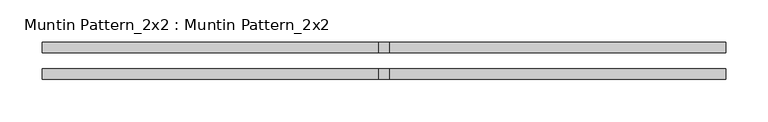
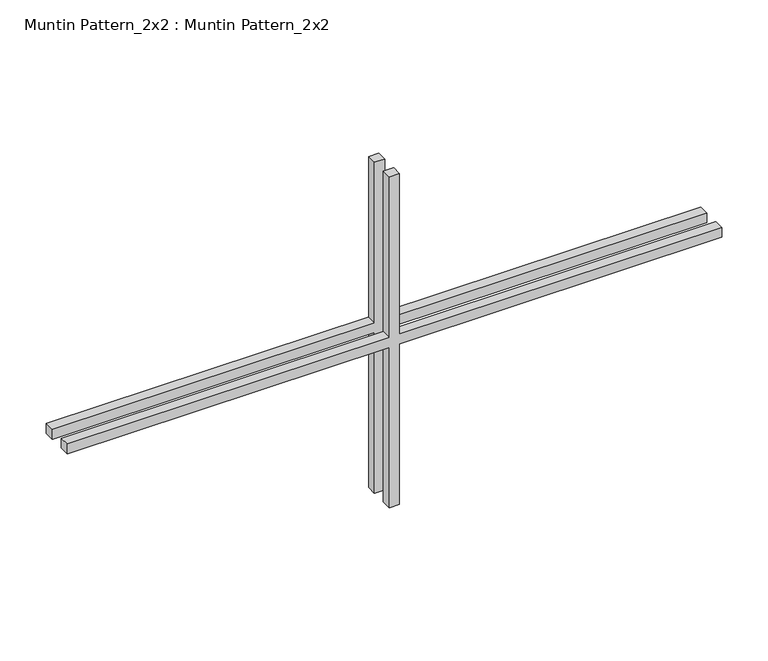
"""IFC4 building model written with IfcOpenShell, lengths in millimetres: proxy geometry, Muntin Pattern_2x2 : Muntin Pattern_2x2."""

import ifcopenshell
import ifcopenshell.guid

model = None  # the IFC model being written
_history = None  # IfcOwnerHistory: only IFC2X3 demands one
_inside = {}  # id of a spatial element -> (the spatial element, [elements in it])
_under = {}  # id of a project, library or spatial element -> (it, [spatial elements below it])
_declared = {}  # id of a project -> (the project, [libraries it declares])
_typed = {}  # id of a type object -> (the type object, [elements of that type])
_made_of = {}  # id of a material, layer set ... -> (it, [elements and type objects made of it])


def new_model(schema):
    """Start an empty IFC model of exactly this schema.

    Asked for "IFC4X3", IfcOpenShell would pick the latest addendum, in which some entities
    have other attributes; the version numbers below select the first issue.
    IFC2X3 requires an IfcOwnerHistory on every rooted entity: one is made here for all.
    """
    global model, _history
    if schema == "IFC4X3":
        model = ifcopenshell.file(schema_version=(4, 3, 0, 0))
    else:
        model = ifcopenshell.file(schema=schema)
    _inside.clear()
    _under.clear()
    _declared.clear()
    _typed.clear()
    _made_of.clear()
    _history = None
    if model.schema == "IFC2X3":
        org = make("IfcOrganization", Name="unknown")
        user = make(
            "IfcPersonAndOrganization",
            ThePerson=make("IfcPerson", FamilyName="unknown"),
            TheOrganization=org,
        )
        app = make(
            "IfcApplication",
            ApplicationDeveloper=org,
            Version="unknown",
            ApplicationFullName="unknown",
            ApplicationIdentifier="unknown",
        )
        _history = make(
            "IfcOwnerHistory",
            OwningUser=user,
            OwningApplication=app,
            ChangeAction="ADDED",
            CreationDate=0,
        )
    return model


def make(cls, **values):
    """One entity of the class cls with the attributes given. An attribute that is None is left unset."""
    return model.create_entity(
        cls, **{name: value for name, value in values.items() if value is not None}
    )


def rooted(cls, **values):
    """An entity with a GlobalId (a new one), such as an element, a storey or a relation."""
    return make(cls, GlobalId=ifcopenshell.guid.new(), OwnerHistory=_history, **values)


def si_unit(unit_type, name, prefix=None):
    """IfcSIUnit, for example si_unit("LENGTHUNIT", "METRE", prefix="MILLI")."""
    return make("IfcSIUnit", UnitType=unit_type, Prefix=prefix, Name=name)


def assignment(units):
    """IfcUnitAssignment: the units of a project."""
    return None if units is None else make("IfcUnitAssignment", Units=units)


def point(xyz):
    """IfcCartesianPoint."""
    return None if xyz is None else make("IfcCartesianPoint", Coordinates=xyz)


def direction(xyz):
    """IfcDirection."""
    return None if xyz is None else make("IfcDirection", DirectionRatios=xyz)


def frame(location, z_axis=None, x_axis=None):
    """IfcAxis2Placement3D, a coordinate frame: its origin and axes. An axis left out is left unset."""
    return make(
        "IfcAxis2Placement3D",
        Location=point(location),
        Axis=direction(z_axis),
        RefDirection=direction(x_axis),
    )


def origin():
    """The frame at (0, 0, 0) with its axes left unset."""
    return frame((0.0, 0.0, 0.0))


def place(relative_to, where):
    """IfcLocalPlacement: puts the frame where relative to a parent placement (None: the world)."""
    return make(
        "IfcLocalPlacement", PlacementRelTo=relative_to, RelativePlacement=where
    )


def context(
    kind, dimensions, precision=None, world=None, true_north=None, identifier=None
):
    """IfcGeometricRepresentationContext, for example the 3D "Model" context."""
    return make(
        "IfcGeometricRepresentationContext",
        ContextIdentifier=identifier,
        ContextType=kind,
        CoordinateSpaceDimension=dimensions,
        Precision=precision,
        WorldCoordinateSystem=world,
        TrueNorth=true_north,
    )


def project(units=None, contexts=None):
    """IfcProject with its units and contexts."""
    return rooted(
        "IfcProject",
        Name="project",
        RepresentationContexts=contexts,
        UnitsInContext=assignment(units),
    )


def spatial(cls, under=None, at=None, **own):
    """A site, building, storey or space (cls), placed at a placement, below another one or the project."""
    s = rooted(cls, ObjectPlacement=at, **own)
    if under is not None:
        _under.setdefault(under.id(), (under, []))[1].append(s)
    return s


def polyline(points):
    """IfcPolyline through the points."""
    return make("IfcPolyline", Points=[point(p) for p in points])


def outline(outer, holes=None, kind="AREA"):
    """IfcArbitraryClosedProfileDef: a profile drawn as a closed curve; with holes, ...WithVoids."""
    if holes is None:
        return make("IfcArbitraryClosedProfileDef", ProfileType=kind, OuterCurve=outer)
    return make(
        "IfcArbitraryProfileDefWithVoids",
        ProfileType=kind,
        OuterCurve=outer,
        InnerCurves=holes,
    )


def extrude(swept, where, along, depth):
    """IfcExtrudedAreaSolid: the profile swept, set in the frame where, extruded along a direction by depth."""
    return make(
        "IfcExtrudedAreaSolid",
        SweptArea=swept,
        Position=where,
        ExtrudedDirection=direction(along),
        Depth=depth,
    )


def shape(context_of_items, identifier, shape_type, items):
    """IfcShapeRepresentation: the items that make up one representation, for example the "Body"."""
    return make(
        "IfcShapeRepresentation",
        ContextOfItems=context_of_items,
        RepresentationIdentifier=identifier,
        RepresentationType=shape_type,
        Items=items,
    )


def source(mapping_origin, context_of_items, identifier, shape_type, items):
    """IfcRepresentationMap: a shape defined once, which mapped items show again and again."""
    return make(
        "IfcRepresentationMap",
        MappingOrigin=mapping_origin,
        MappedRepresentation=shape(context_of_items, identifier, shape_type, items),
    )


def transform(
    local_origin,
    x_axis=None,
    y_axis=None,
    z_axis=None,
    scale=None,
    scale2=None,
    scale3=None,
    uniform=True,
):
    """IfcCartesianTransformationOperator3D, or its non-uniform kind. x_axis, y_axis, z_axis: its Axis1, 2, 3."""
    if uniform:
        return make(
            "IfcCartesianTransformationOperator3D",
            Axis1=direction(x_axis),
            Axis2=direction(y_axis),
            LocalOrigin=point(local_origin),
            Scale=scale,
            Axis3=direction(z_axis),
        )
    return make(
        "IfcCartesianTransformationOperator3DnonUniform",
        Axis1=direction(x_axis),
        Axis2=direction(y_axis),
        LocalOrigin=point(local_origin),
        Scale=scale,
        Axis3=direction(z_axis),
        Scale2=scale2,
        Scale3=scale3,
    )


def mapped(mapping_source, mapping_target):
    """IfcMappedItem: shows the shape of a source again, moved by a transform."""
    return make(
        "IfcMappedItem", MappingSource=mapping_source, MappingTarget=mapping_target
    )


def made_of(thing, what):
    """Note that an element or type object is made of a material, layer set ...; save() writes the relation."""
    if what is not None:
        _made_of.setdefault(what.id(), (what, []))[1].append(thing)
    return thing


def element(
    cls,
    number,
    at=None,
    inside=None,
    cuts=None,
    type_object=None,
    material=None,
    context=None,
    identifier="Body",
    shape_type=None,
    held_by="IfcProductDefinitionShape",
    body=None,
    shapes=None,
    **own,
):
    """One element of the class cls, such as IfcWall. Its Tag is "e" and its number.

    at: its placement. inside: the storey or other place that contains it. cuts: it is an
    opening in that element (IfcRelVoidsElement). A single representation is given by context,
    identifier, shape_type and body (its items); several are given by shapes. held_by: the class
    of the entity that holds the representations. save() writes the other relations.
    """
    e = rooted(cls, Tag="e%d" % number, ObjectPlacement=at, **own)
    if body is not None:
        shapes = [shape(context, identifier, shape_type, body)]
    if shapes is not None:
        e.Representation = make(held_by, Representations=shapes)
    if inside is not None:
        _inside.setdefault(inside.id(), (inside, []))[1].append(e)
    if cuts is not None:
        rooted(
            "IfcRelVoidsElement", RelatingBuildingElement=cuts, RelatedOpeningElement=e
        )
    if type_object is not None:
        _typed.setdefault(type_object.id(), (type_object, []))[1].append(e)
    return made_of(e, material)


def aggregate(whole, parts):
    """IfcRelAggregates: a whole, such as a stair, and the parts it consists of."""
    return rooted("IfcRelAggregates", RelatingObject=whole, RelatedObjects=parts)


def save(model, path):
    """Write the relations noted so far, then the file.

    IfcRelAggregates (storeys below a building ...), IfcRelContainedInSpatialStructure (elements
    in a storey), IfcRelDefinesByType, IfcRelAssociatesMaterial and IfcRelDeclares: one each for
    every whole, place, type object, material and project.
    """
    for whole, parts in _under.values():
        aggregate(whole, parts)
    for where, things in _inside.values():
        rooted(
            "IfcRelContainedInSpatialStructure",
            RelatedElements=things,
            RelatingStructure=where,
        )
    for kind, things in _typed.values():
        rooted("IfcRelDefinesByType", RelatedObjects=things, RelatingType=kind)
    for what, things in _made_of.values():
        rooted("IfcRelAssociatesMaterial", RelatedObjects=things, RelatingMaterial=what)
    for by, libraries in _declared.values():
        rooted("IfcRelDeclares", RelatingContext=by, RelatedDefinitions=libraries)
    model.write(path)


def muntin_pattern_2x2_muntin_pattern_2x2_7c75a8ce(model_context):
    return source(origin(), model_context, "Body", "SweptSolid", [
        extrude(outline(polyline([(223.8375, -6.35), (223.8375, -406.4), (211.1375, -406.4), (211.1375, -6.35), (0.0, -6.35), (0.0, 6.35), (211.1375, 6.35), (211.1375, 406.4), (223.8375, 406.4), (223.8375, 6.35), (434.975, 6.35), (434.975, -6.35), (223.8375, -6.35)])), frame((0.0, 9.525, 0.0), z_axis=(0.0, 1.0, 0.0), x_axis=(0.0, 0.0, 1.0)), (0.0, 0.0, 1.0), 12.7),
        extrude(outline(polyline([(223.8375, -6.35), (223.8375, -406.4), (211.1375, -406.4), (211.1375, -6.35), (0.0, -6.35), (0.0, 6.35), (211.1375, 6.35), (211.1375, 406.4), (223.8375, 406.4), (223.8375, 6.35), (434.975, 6.35), (434.975, -6.35), (223.8375, -6.35)])), frame((0.0, -22.225, 0.0), z_axis=(0.0, 1.0, 0.0), x_axis=(0.0, 0.0, 1.0)), (0.0, 0.0, 1.0), 12.7),
    ])


if __name__ == "__main__":
    model = new_model("IFC4")
    model_context = context("Model", 3, world=origin())
    ifc_project = project(units=[si_unit("LENGTHUNIT", "METRE", prefix="MILLI")], contexts=[model_context])
    site = spatial("IfcSite", under=ifc_project)
    building = spatial("IfcBuilding", under=site)
    placement = place(None, origin())
    muntin_pattern_2x2_muntin_pattern_2x2_shape = muntin_pattern_2x2_muntin_pattern_2x2_7c75a8ce(model_context)
    element("IfcBuildingElementProxy", 1, Name="Muntin Pattern_2x2 : Muntin Pattern_2x2", ObjectType="Muntin Pattern_2x2 : Muntin Pattern_2x2", at=placement, inside=building, context=model_context, shape_type="MappedRepresentation", body=[
        mapped(muntin_pattern_2x2_muntin_pattern_2x2_shape, transform((0.0, 0.0, 0.0), x_axis=(1.0, 0.0, 0.0), y_axis=(0.0, 1.0, 0.0), z_axis=(0.0, 0.0, 1.0))),
    ])
    save(model, "model.ifc")
